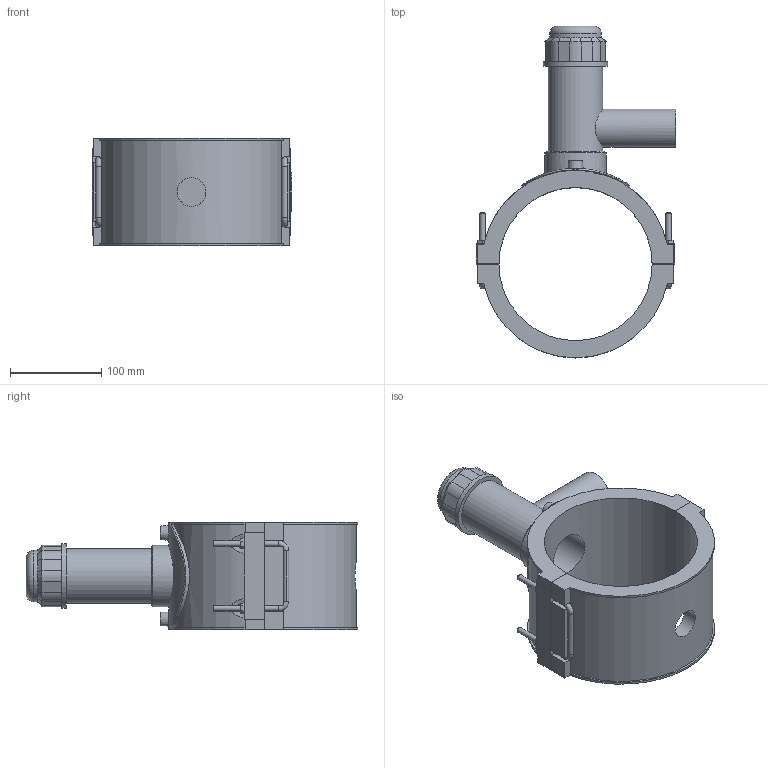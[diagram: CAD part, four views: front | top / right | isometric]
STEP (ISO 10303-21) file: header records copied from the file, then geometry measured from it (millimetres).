
FILE_DESCRIPTION(/* description */ ('PLASSON TAPPING SADDLE 6''''IPS x 1 1/4''''IPS'),/* implementation_level */ '2;1');
FILE_NAME(/* name */ 'C:\Dropbox\KIMPROJECTS-Inventor 2019\99-16-3568-Processing Inch\ASTM ElectroFusion 2021\5963B\5963BB03060013.ipt.stp',/* time_stamp */ '2021-08-30T09:55:35+03:00',/* author */ ('KIM'),/* organization */ (''),/* preprocessor_version */ 'ST-DEVELOPER v17.2',/* originating_system */ 'Autodesk Inventor 2019',/* authorisation */ '');
FILE_SCHEMA (('AUTOMOTIVE_DESIGN { 1 0 10303 214 3 1 1 }'));
Length unit declared in the file: millimetre
Products named in the file (1): 5963BB03060013
Bounding box: 218.93 x 363.85 x 118.11 mm (x, y, z)
Volume: 1534389.8 mm3; surface area: 260595.5 mm2
Topology: 1 solids, 1 shells, 198 faces, 533 edges, 350 vertices
Faces by surface type: plane 120, cylinder 53, cone 15, torus 5, bspline 5
Full cylindrical faces by diameter (mm): 4 x2, 6 x7, 10 x2, 31.36 x1, 33.68 x1, 42.1 x1, 49.392 x1, 56.448 x1, 59.976 x1, 67.032 x1, 70.56 x1, 117.6 x1
Entity records: 7516 total; most frequent: CARTESIAN_POINT 2395, ORIENTED_EDGE 1088, DIRECTION 1024, EDGE_CURVE 544, VERTEX_POINT 350, AXIS2_PLACEMENT_3D 346, LINE 332, VECTOR 332
